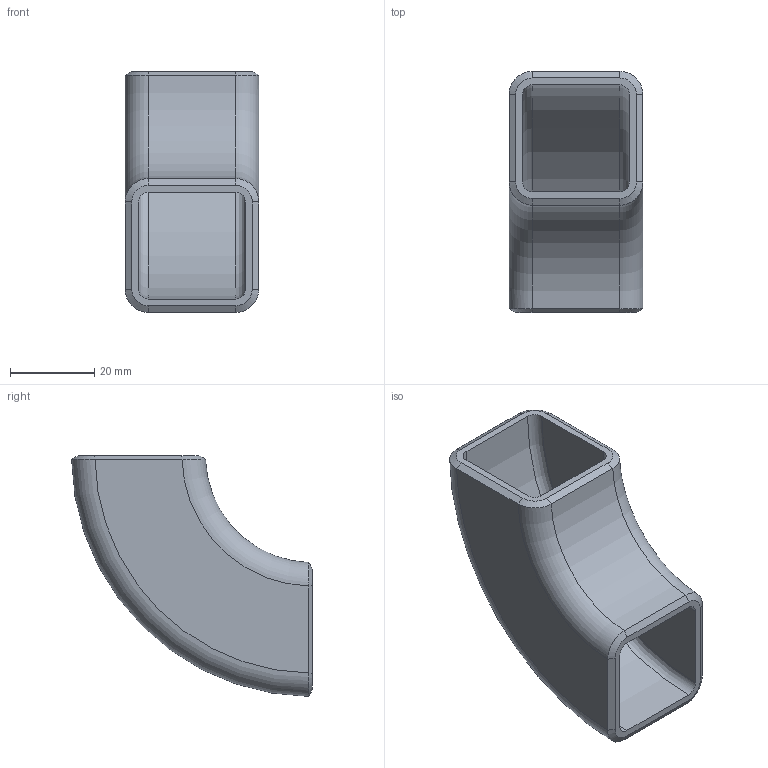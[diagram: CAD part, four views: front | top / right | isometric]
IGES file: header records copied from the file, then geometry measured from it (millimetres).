
Global section: file name: No Iges File Name specified; native system: Autodesk Inventor 2011; preprocessor: AutoDesk Inventor Iges Exporter R2011; author: bamfomg; date: 20110321.073012; units: inch
Bounding box: 31.75 x 57.14 x 57.14 mm (x, y, z)
Volume: 21964.2 mm3; surface area: 14463.4 mm2
Topology: 1 solids, 1 shells, 34 faces, 80 edges, 48 vertices
Faces by surface type: bspline 16, revolution 6, plane 6, torus 4, cylinder 2
